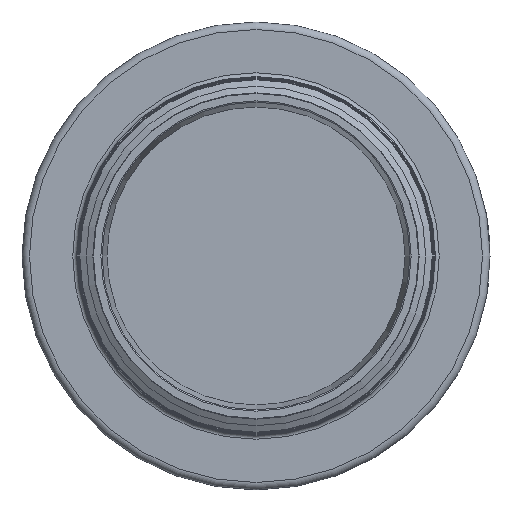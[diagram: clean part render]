
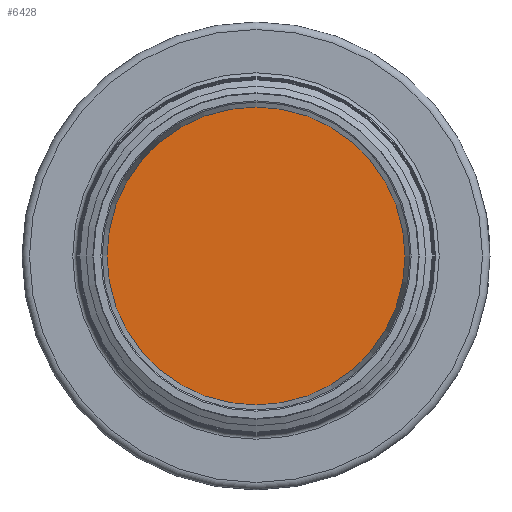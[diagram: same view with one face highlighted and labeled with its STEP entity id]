
A CAD part, left-side view. The second image highlights one B-rep face of the part: STEP entity #6428.
In plain terms, the highlighted planar face has unit normal (-1, 0, 0).
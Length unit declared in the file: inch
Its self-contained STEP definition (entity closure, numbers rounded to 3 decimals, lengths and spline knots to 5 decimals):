
#831=PLANE('',#6892);
#2062=ORIENTED_EDGE('',*,*,#2230,.T.);
#2230=EDGE_CURVE('',#2828,#2828,#3152,.T.);
#2828=VERTEX_POINT('',#8580);
#3152=CIRCLE('',#6501,1.19442);
#3670=EDGE_LOOP('',(#2062));
#4070=FACE_BOUND('',#3670,.T.);
#6428=ADVANCED_FACE('',(#4070),#831,.T.);
#6501=AXIS2_PLACEMENT_3D('',#8579,#7090,#7091);
#6892=AXIS2_PLACEMENT_3D('',#11026,#8027,#8028);
#7090=DIRECTION('',(-1.,0.,0.));
#7091=DIRECTION('',(0.,0.,1.));
#8027=DIRECTION('',(-1.,0.,0.));
#8028=DIRECTION('',(0.,0.,1.));
#8579=CARTESIAN_POINT('',(0.21029,0.,0.));
#8580=CARTESIAN_POINT('',(0.21029,0.,1.19442));
#11026=CARTESIAN_POINT('',(0.21029,0.,0.77081));
